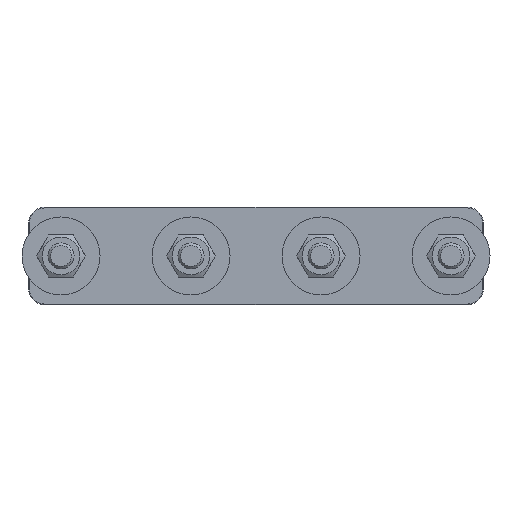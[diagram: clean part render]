
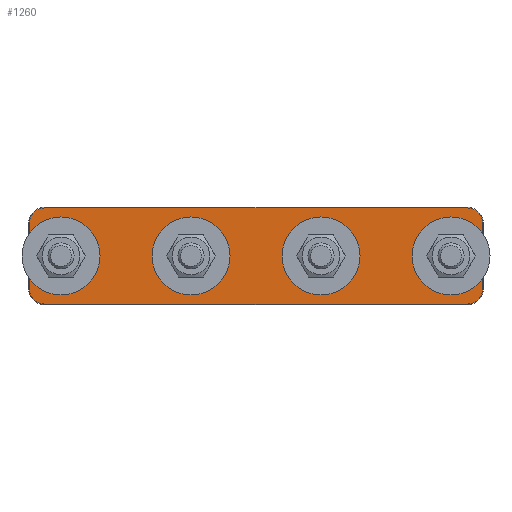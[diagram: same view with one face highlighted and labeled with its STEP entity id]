
A CAD part, top view. The second image highlights one B-rep face of the part: STEP entity #1260.
In plain terms, the highlighted planar face has unit normal (0, 0, 1).
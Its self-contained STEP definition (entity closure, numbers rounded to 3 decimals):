
#139=FACE_BOUND('',#419,.T.);
#140=FACE_BOUND('',#420,.T.);
#141=FACE_BOUND('',#421,.T.);
#142=FACE_BOUND('',#422,.T.);
#153=PLANE('',#1476);
#186=LINE('',#2154,#247);
#187=LINE('',#2158,#248);
#188=LINE('',#2162,#249);
#189=LINE('',#2165,#250);
#247=VECTOR('',#1702,10.);
#248=VECTOR('',#1705,10.);
#249=VECTOR('',#1708,10.);
#250=VECTOR('',#1711,10.);
#332=FACE_OUTER_BOUND('',#418,.T.);
#418=EDGE_LOOP('',(#912,#913,#914,#915,#916,#917,#918,#919));
#419=EDGE_LOOP('',(#920));
#420=EDGE_LOOP('',(#921));
#421=EDGE_LOOP('',(#922));
#422=EDGE_LOOP('',(#923));
#521=CIRCLE('',#1474,5.7);
#523=CIRCLE('',#1477,4.8);
#524=CIRCLE('',#1478,4.8);
#525=CIRCLE('',#1479,4.8);
#526=CIRCLE('',#1480,4.8);
#527=CIRCLE('',#1481,5.7);
#528=CIRCLE('',#1482,5.7);
#529=CIRCLE('',#1483,5.7);
#616=VERTEX_POINT('',#2146);
#617=VERTEX_POINT('',#2150);
#618=VERTEX_POINT('',#2151);
#619=VERTEX_POINT('',#2153);
#620=VERTEX_POINT('',#2155);
#621=VERTEX_POINT('',#2157);
#622=VERTEX_POINT('',#2159);
#623=VERTEX_POINT('',#2161);
#624=VERTEX_POINT('',#2163);
#625=VERTEX_POINT('',#2166);
#626=VERTEX_POINT('',#2168);
#627=VERTEX_POINT('',#2170);
#726=EDGE_CURVE('',#616,#616,#521,.T.);
#728=EDGE_CURVE('',#617,#618,#523,.T.);
#729=EDGE_CURVE('',#619,#617,#186,.T.);
#730=EDGE_CURVE('',#620,#619,#524,.T.);
#731=EDGE_CURVE('',#621,#620,#187,.T.);
#732=EDGE_CURVE('',#622,#621,#525,.T.);
#733=EDGE_CURVE('',#623,#622,#188,.T.);
#734=EDGE_CURVE('',#624,#623,#526,.T.);
#735=EDGE_CURVE('',#618,#624,#189,.T.);
#736=EDGE_CURVE('',#625,#625,#527,.T.);
#737=EDGE_CURVE('',#626,#626,#528,.T.);
#738=EDGE_CURVE('',#627,#627,#529,.T.);
#912=ORIENTED_EDGE('',*,*,#728,.F.);
#913=ORIENTED_EDGE('',*,*,#729,.F.);
#914=ORIENTED_EDGE('',*,*,#730,.F.);
#915=ORIENTED_EDGE('',*,*,#731,.F.);
#916=ORIENTED_EDGE('',*,*,#732,.F.);
#917=ORIENTED_EDGE('',*,*,#733,.F.);
#918=ORIENTED_EDGE('',*,*,#734,.F.);
#919=ORIENTED_EDGE('',*,*,#735,.F.);
#920=ORIENTED_EDGE('',*,*,#736,.F.);
#921=ORIENTED_EDGE('',*,*,#737,.F.);
#922=ORIENTED_EDGE('',*,*,#738,.F.);
#923=ORIENTED_EDGE('',*,*,#726,.F.);
#1260=ADVANCED_FACE('',(#332,#139,#140,#141,#142),#153,.T.);
#1474=AXIS2_PLACEMENT_3D('',#2147,#1694,#1695);
#1476=AXIS2_PLACEMENT_3D('',#2149,#1698,#1699);
#1477=AXIS2_PLACEMENT_3D('',#2152,#1700,#1701);
#1478=AXIS2_PLACEMENT_3D('',#2156,#1703,#1704);
#1479=AXIS2_PLACEMENT_3D('',#2160,#1706,#1707);
#1480=AXIS2_PLACEMENT_3D('',#2164,#1709,#1710);
#1481=AXIS2_PLACEMENT_3D('',#2167,#1712,#1713);
#1482=AXIS2_PLACEMENT_3D('',#2169,#1714,#1715);
#1483=AXIS2_PLACEMENT_3D('',#2171,#1716,#1717);
#1694=DIRECTION('center_axis',(0.,0.,1.));
#1695=DIRECTION('ref_axis',(-1.,0.,0.));
#1698=DIRECTION('center_axis',(0.,0.,1.));
#1699=DIRECTION('ref_axis',(1.,0.,0.));
#1700=DIRECTION('center_axis',(0.,0.,-1.));
#1701=DIRECTION('ref_axis',(0.707,0.707,0.));
#1702=DIRECTION('',(1.,0.,0.));
#1703=DIRECTION('center_axis',(0.,0.,-1.));
#1704=DIRECTION('ref_axis',(-0.707,0.707,0.));
#1705=DIRECTION('',(0.,1.,0.));
#1706=DIRECTION('center_axis',(0.,0.,-1.));
#1707=DIRECTION('ref_axis',(-0.707,-0.707,0.));
#1708=DIRECTION('',(-1.,0.,0.));
#1709=DIRECTION('center_axis',(0.,0.,-1.));
#1710=DIRECTION('ref_axis',(0.707,-0.707,0.));
#1711=DIRECTION('',(0.,-1.,0.));
#1712=DIRECTION('center_axis',(0.,0.,1.));
#1713=DIRECTION('ref_axis',(-1.,0.,0.));
#1714=DIRECTION('center_axis',(0.,0.,1.));
#1715=DIRECTION('ref_axis',(-1.,0.,0.));
#1716=DIRECTION('center_axis',(0.,0.,1.));
#1717=DIRECTION('ref_axis',(-1.,0.,0.));
#2146=CARTESIAN_POINT('',(135.7,15.,4.));
#2147=CARTESIAN_POINT('Origin',(130.,15.,4.));
#2149=CARTESIAN_POINT('Origin',(70.,15.,4.));
#2150=CARTESIAN_POINT('',(135.,29.8,4.));
#2151=CARTESIAN_POINT('',(139.8,25.,4.));
#2152=CARTESIAN_POINT('Origin',(135.,25.,4.));
#2153=CARTESIAN_POINT('',(5.,29.8,4.));
#2154=CARTESIAN_POINT('',(37.5,29.8,4.));
#2155=CARTESIAN_POINT('',(0.2,25.,4.));
#2156=CARTESIAN_POINT('Origin',(5.,25.,4.));
#2157=CARTESIAN_POINT('',(0.2,5.,4.));
#2158=CARTESIAN_POINT('',(0.2,10.,4.));
#2159=CARTESIAN_POINT('',(5.,0.2,4.));
#2160=CARTESIAN_POINT('Origin',(5.,5.,4.));
#2161=CARTESIAN_POINT('',(135.,0.2,4.));
#2162=CARTESIAN_POINT('',(102.5,0.2,4.));
#2163=CARTESIAN_POINT('',(139.8,5.,4.));
#2164=CARTESIAN_POINT('Origin',(135.,5.,4.));
#2165=CARTESIAN_POINT('',(139.8,20.,4.));
#2166=CARTESIAN_POINT('',(95.7,15.,4.));
#2167=CARTESIAN_POINT('Origin',(90.,15.,4.));
#2168=CARTESIAN_POINT('',(15.7,15.,4.));
#2169=CARTESIAN_POINT('Origin',(10.,15.,4.));
#2170=CARTESIAN_POINT('',(55.7,15.,4.));
#2171=CARTESIAN_POINT('Origin',(50.,15.,4.));
